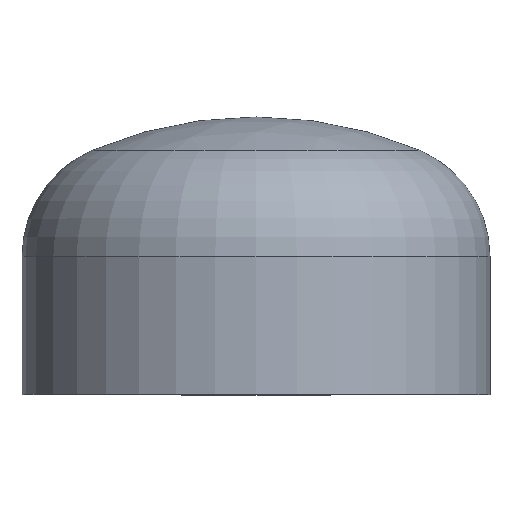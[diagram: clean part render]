
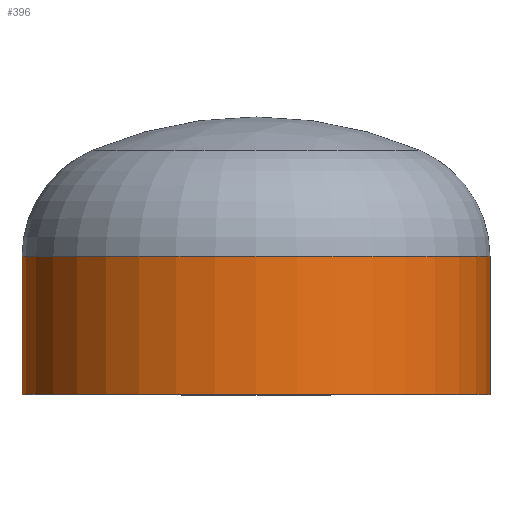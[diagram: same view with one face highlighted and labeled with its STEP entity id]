
A CAD part, top view. The second image highlights one B-rep face of the part: STEP entity #396.
In plain terms, the highlighted cylindrical face has radius 203.2 mm (diameter 406.4 mm), a partial arc.
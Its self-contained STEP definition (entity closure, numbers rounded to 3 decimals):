
#1 = CARTESIAN_POINT ( 'NONE',  ( -203.2, 0., 0. ) ) ;
#3 = VERTEX_POINT ( 'NONE', #250 ) ;
#6 = ORIENTED_EDGE ( 'NONE', *, *, #171, .T. ) ;
#9 = DIRECTION ( 'NONE',  ( 0., -1., 0. ) ) ;
#15 = VERTEX_POINT ( 'NONE', #222 ) ;
#27 = AXIS2_PLACEMENT_3D ( 'NONE', #203, #344, #281 ) ;
#60 = VERTEX_POINT ( 'NONE', #320 ) ;
#80 = LINE ( 'NONE', #299, #392 ) ;
#86 = CARTESIAN_POINT ( 'NONE',  ( 0., 0., 0. ) ) ;
#90 = ORIENTED_EDGE ( 'NONE', *, *, #142, .F. ) ;
#91 = VERTEX_POINT ( 'NONE', #336 ) ;
#117 = CIRCLE ( 'NONE', #334, 203.2 ) ;
#126 = ORIENTED_EDGE ( 'NONE', *, *, #367, .F. ) ;
#130 = ORIENTED_EDGE ( 'NONE', *, *, #330, .T. ) ;
#133 = DIRECTION ( 'NONE',  ( 1., 0., 0. ) ) ;
#142 = EDGE_CURVE ( 'NONE', #3, #60, #80, .T. ) ;
#171 = EDGE_CURVE ( 'NONE', #91, #15, #181, .T. ) ;
#181 = LINE ( 'NONE', #1, #318 ) ;
#203 = CARTESIAN_POINT ( 'NONE',  ( 0., 0., 0. ) ) ;
#206 = DIRECTION ( 'NONE',  ( 0., -1., 0. ) ) ;
#220 = EDGE_LOOP ( 'NONE', ( #130, #6, #126, #90 ) ) ;
#222 = CARTESIAN_POINT ( 'NONE',  ( -203.2, 0., 0. ) ) ;
#225 = DIRECTION ( 'NONE',  ( 1., 0., 0. ) ) ;
#246 = AXIS2_PLACEMENT_3D ( 'NONE', #382, #304, #225 ) ;
#250 = CARTESIAN_POINT ( 'NONE',  ( 203.2, 120., 0. ) ) ;
#262 = CYLINDRICAL_SURFACE ( 'NONE', #27, 203.2 ) ;
#268 = FACE_OUTER_BOUND ( 'NONE', #220, .T. ) ;
#281 = DIRECTION ( 'NONE',  ( 1., 0., 0. ) ) ;
#299 = CARTESIAN_POINT ( 'NONE',  ( 203.2, 0., 0. ) ) ;
#304 = DIRECTION ( 'NONE',  ( 0., -1., 0. ) ) ;
#311 = DIRECTION ( 'NONE',  ( 0., -1., 0. ) ) ;
#318 = VECTOR ( 'NONE', #9, 1000. ) ;
#320 = CARTESIAN_POINT ( 'NONE',  ( 203.2, 0., 0. ) ) ;
#330 = EDGE_CURVE ( 'NONE', #3, #91, #358, .T. ) ;
#334 = AXIS2_PLACEMENT_3D ( 'NONE', #86, #311, #133 ) ;
#336 = CARTESIAN_POINT ( 'NONE',  ( -203.2, 120., 0. ) ) ;
#344 = DIRECTION ( 'NONE',  ( 0., -1., 0. ) ) ;
#358 = CIRCLE ( 'NONE', #246, 203.2 ) ;
#367 = EDGE_CURVE ( 'NONE', #60, #15, #117, .T. ) ;
#382 = CARTESIAN_POINT ( 'NONE',  ( 0., 120., 0. ) ) ;
#392 = VECTOR ( 'NONE', #206, 1000. ) ;
#396 = ADVANCED_FACE ( 'NONE', ( #268 ), #262, .T. ) ;
